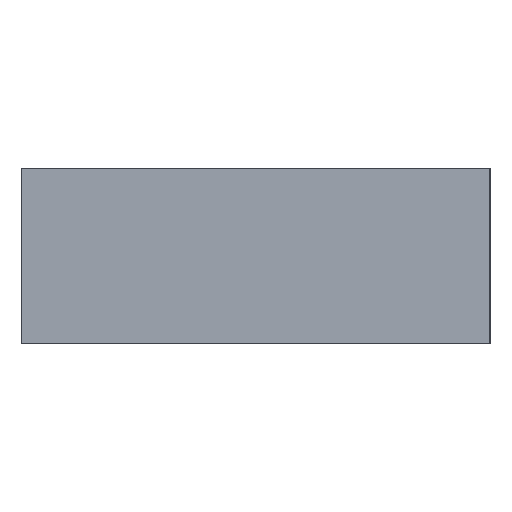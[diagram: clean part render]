
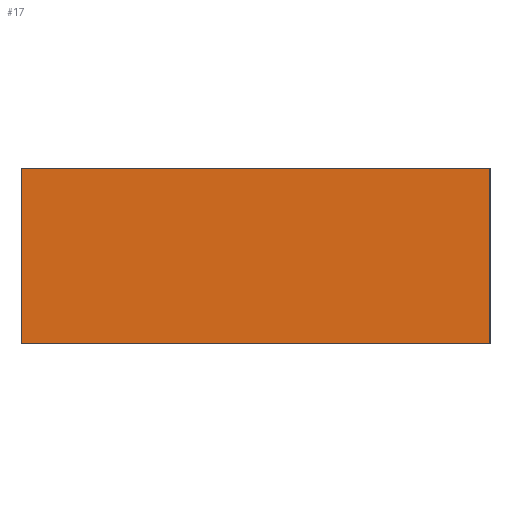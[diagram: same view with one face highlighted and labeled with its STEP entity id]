
A CAD part, left-side view. The second image highlights one B-rep face of the part: STEP entity #17.
In plain terms, the highlighted free-form (B-spline) face has degree [1, 1] with [2, 2] control points.
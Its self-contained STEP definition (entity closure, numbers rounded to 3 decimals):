
#17 = ADVANCED_FACE('',(#18),#48,.T.);
#18 = FACE_BOUND('',#19,.T.);
#19 = EDGE_LOOP('',(#20,#29,#36,#43));
#20 = ORIENTED_EDGE('',*,*,#21,.F.);
#21 = EDGE_CURVE('',#22,#24,#26,.T.);
#22 = VERTEX_POINT('',#23);
#23 = CARTESIAN_POINT('',(0.,0.,0.));
#24 = VERTEX_POINT('',#25);
#25 = CARTESIAN_POINT('',(0.,0.,6.));
#26 = B_SPLINE_CURVE_WITH_KNOTS('',1,(#27,#28),.UNSPECIFIED.,.F.,.F.,(2,
    2),(0.,6.),.PIECEWISE_BEZIER_KNOTS.);
#27 = CARTESIAN_POINT('',(0.,0.,0.));
#28 = CARTESIAN_POINT('',(0.,0.,6.));
#29 = ORIENTED_EDGE('',*,*,#30,.T.);
#30 = EDGE_CURVE('',#22,#31,#33,.T.);
#31 = VERTEX_POINT('',#32);
#32 = CARTESIAN_POINT('',(0.,-16.,0.));
#33 = B_SPLINE_CURVE_WITH_KNOTS('',1,(#34,#35),.UNSPECIFIED.,.F.,.F.,(2,
    2),(0.,16.),.PIECEWISE_BEZIER_KNOTS.);
#34 = CARTESIAN_POINT('',(0.,0.,0.));
#35 = CARTESIAN_POINT('',(0.,-16.,0.));
#36 = ORIENTED_EDGE('',*,*,#37,.T.);
#37 = EDGE_CURVE('',#31,#38,#40,.T.);
#38 = VERTEX_POINT('',#39);
#39 = CARTESIAN_POINT('',(0.,-16.,6.));
#40 = B_SPLINE_CURVE_WITH_KNOTS('',1,(#41,#42),.UNSPECIFIED.,.F.,.F.,(2,
    2),(0.,6.),.PIECEWISE_BEZIER_KNOTS.);
#41 = CARTESIAN_POINT('',(0.,-16.,0.));
#42 = CARTESIAN_POINT('',(0.,-16.,6.));
#43 = ORIENTED_EDGE('',*,*,#44,.F.);
#44 = EDGE_CURVE('',#24,#38,#45,.T.);
#45 = B_SPLINE_CURVE_WITH_KNOTS('',1,(#46,#47),.UNSPECIFIED.,.F.,.F.,(2,
    2),(0.,16.),.PIECEWISE_BEZIER_KNOTS.);
#46 = CARTESIAN_POINT('',(0.,0.,6.));
#47 = CARTESIAN_POINT('',(0.,-16.,6.));
#48 = B_SPLINE_SURFACE_WITH_KNOTS('',1,1,(
    (#49,#50)
    ,(#51,#52)),.UNSPECIFIED.,.F.,.F.,.F.,(2,2),(2,2),(0.,6.),(-16.,0.),
  .PIECEWISE_BEZIER_KNOTS.);
#49 = CARTESIAN_POINT('',(0.,-16.,0.));
#50 = CARTESIAN_POINT('',(0.,0.,0.));
#51 = CARTESIAN_POINT('',(0.,-16.,6.));
#52 = CARTESIAN_POINT('',(0.,0.,6.));
